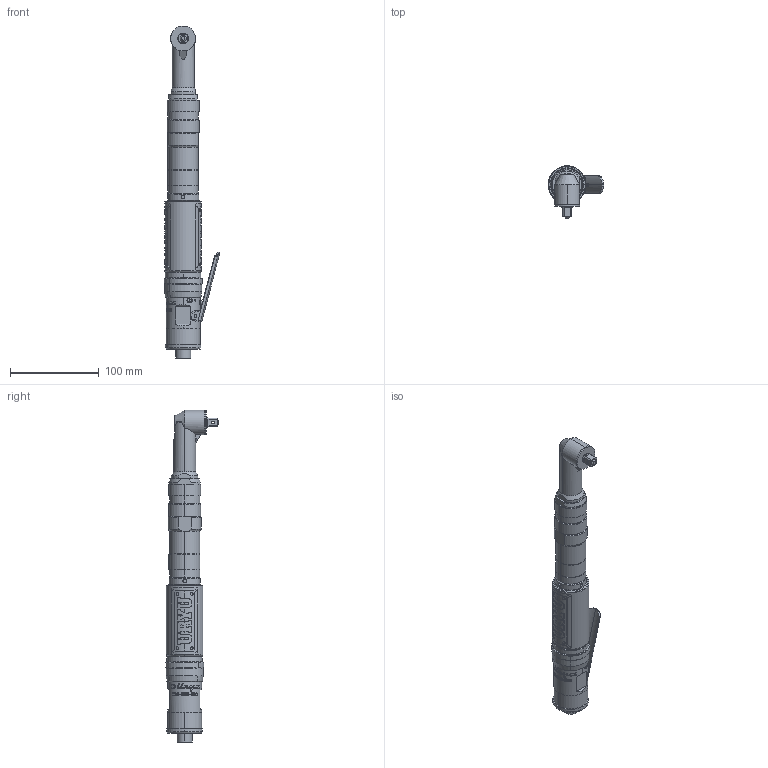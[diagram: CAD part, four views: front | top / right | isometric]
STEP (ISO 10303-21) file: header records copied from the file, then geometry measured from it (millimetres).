
FILE_DESCRIPTION (( 'STEP AP203' ), '1' );
FILE_NAME ('UAN-611R-50C.STEP', '2007-10-26T06:22:06', ( 'gikai-nt16' ), ( ' ' ), 'SwSTEP 2.0', 'SolidWorks 2003240', '' );
FILE_SCHEMA (( 'CONFIG_CONTROL_DESIGN' ));
Length unit declared in the file: millimetre
Products named in the file (11): 2680257_UAN-611R-50C_蹬怮椔; 2591140_UAN-611R-30C_蹬怮椔; 2688406_UAN-611R-30C_蹬怮椔; UAN-611R-50C; 2583195_UAN-611R-30C_蹬怮椔; 2684416_蹬怮椔; 2683696_UAN-611R-30C_蹬怮椔; 4630298_UAN-611R-30C_蹬怮椔; 2597806_UAN-611R-30C_蹬怮椔; 1961077_UAN-611R-30C_蹬怮椔; 2682126_UAN-611R-30C_蹬怮椔
Assembly tree (10 placements, depth 2):
  UAN-611R-50C
    2688406_UAN-611R-30C_蹬怮椔
    2680257_UAN-611R-50C_蹬怮椔
    2684416_蹬怮椔
    1961077_UAN-611R-30C_蹬怮椔
    2583195_UAN-611R-30C_蹬怮椔
    2682126_UAN-611R-30C_蹬怮椔
    4630298_UAN-611R-30C_蹬怮椔
    2591140_UAN-611R-30C_蹬怮椔
    2597806_UAN-611R-30C_蹬怮椔
    2683696_UAN-611R-30C_蹬怮椔
Bounding box: 62.79 x 59.42 x 373.2 mm (x, y, z)
Volume: 372396.8 mm3; surface area: 85789 mm2
Topology: 10 solids, 10 shells, 931 faces, 2432 edges, 1598 vertices
Faces by surface type: plane 442, cylinder 339, bspline 97, cone 43, torus 8, sphere 2
Entity records: 38399 total; most frequent: CARTESIAN_POINT 15579, ORIENTED_EDGE 4860, DIRECTION 4041, EDGE_CURVE 2430, VERTEX_POINT 1598, AXIS2_PLACEMENT_3D 1473, LINE 1095, VECTOR 1095
